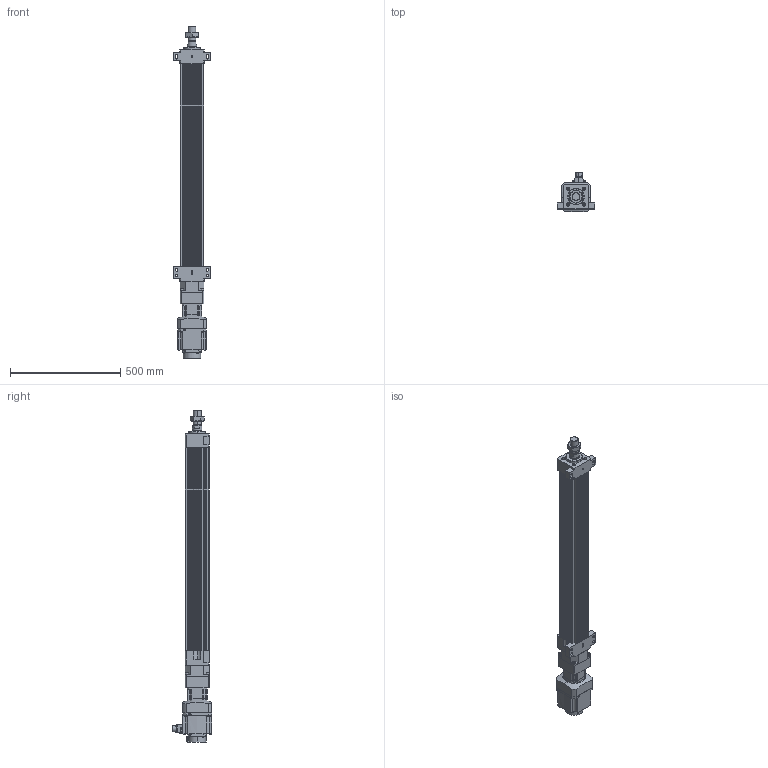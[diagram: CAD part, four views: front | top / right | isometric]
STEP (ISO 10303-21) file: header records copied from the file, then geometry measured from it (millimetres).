
FILE_DESCRIPTION (( 'STEP AP203' ), '1' );
FILE_NAME ('HES110NS(HS)-S750-W010G00-M-FFB.STEP', '2023-01-27T06:09:26', ( 'tms' ), ( '' ), 'SwSTEP 2.0', 'SolidWorks 2013', '' );
FILE_SCHEMA (( 'CONFIG_CONTROL_DESIGN' ));
Length unit declared in the file: millimetre
Products named in the file (8): HES110NS(HS)-S750-W010G00-M-FFB; M36X1.5P; AB0901; P0401301004; HES110 ROD M ST750; AB090-003[HG-SR102B]; HES110-S750-G090-FFB; HG-SR102
Assembly tree (7 placements, depth 3):
  HES110NS(HS)-S750-W010G00-M-FFB
    HES110-S750-G090-FFB
    HES110 ROD M ST750
    M36X1.5P
    AB090-003[HG-SR102B]
      AB0901
      P0401301004
    HG-SR102
Bounding box: 170 x 177.49 x 1508.5 mm (x, y, z)
Volume: 9726020.6 mm3; surface area: 1376371.2 mm2
Topology: 4 solids, 15 shells, 1189 faces, 3015 edges, 1964 vertices
Faces by surface type: plane 570, cylinder 529, cone 78, bspline 8, torus 4
Entity records: 37852 total; most frequent: CARTESIAN_POINT 7358, DIRECTION 6498, ORIENTED_EDGE 5982, EDGE_CURVE 3001, AXIS2_PLACEMENT_3D 2375, VERTEX_POINT 1964, VECTOR 1748, LINE 1748
